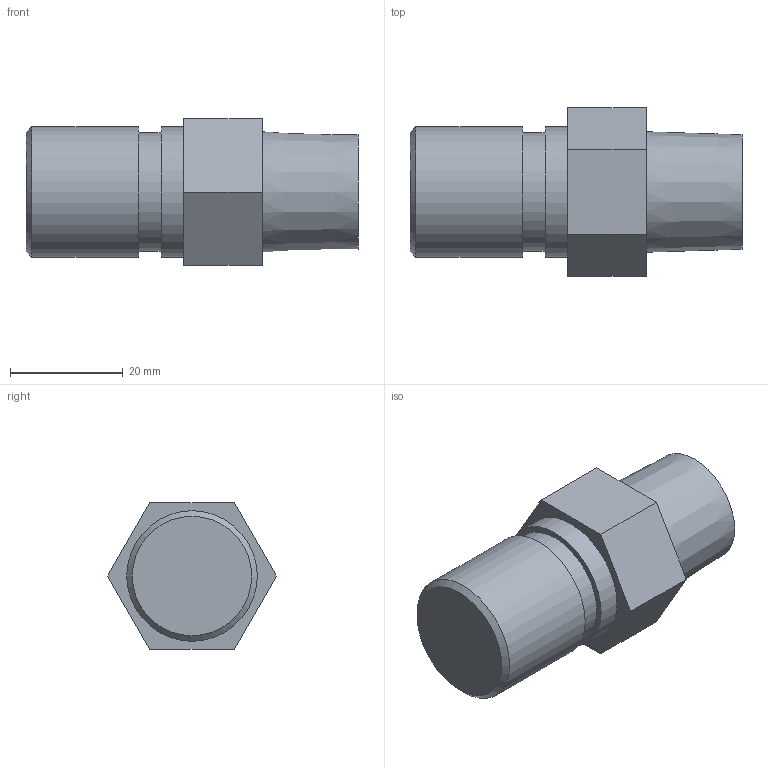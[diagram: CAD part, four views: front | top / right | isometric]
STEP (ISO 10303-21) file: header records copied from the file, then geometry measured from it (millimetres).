
FILE_DESCRIPTION((''),'2;1');
FILE_NAME('Z:\客先\あ行\アオイ\99_その他\3D_DATA\CPR_Series\8CPR-SPV-R\STEP\203\CPR-SPV-R1-2.ipt.stp','2008-07-04T11:08:37',(''),(''),'Autodesk Inventor 2009','Autodesk Inventor 2009','');
FILE_SCHEMA(('CONFIG_CONTROL_DESIGN'));
Length unit declared in the file: millimetre
Products named in the file (1): CPR-SPV-R1-2
Bounding box: 59 x 30.02 x 26 mm (x, y, z)
Volume: 25507.7 mm3; surface area: 5633.9 mm2
Topology: 1 solids, 1 shells, 17 faces, 32 edges, 21 vertices
Faces by surface type: plane 12, cylinder 3, cone 2
Full cylindrical faces by diameter (mm): 21 x1, 23.2 x2
Entity records: 419 total; most frequent: DIRECTION 72, CARTESIAN_POINT 66, ORIENTED_EDGE 54, AXIS2_PLACEMENT_3D 27, EDGE_CURVE 27, EDGE_LOOP 26, VERTEX_POINT 21, VECTOR 18
